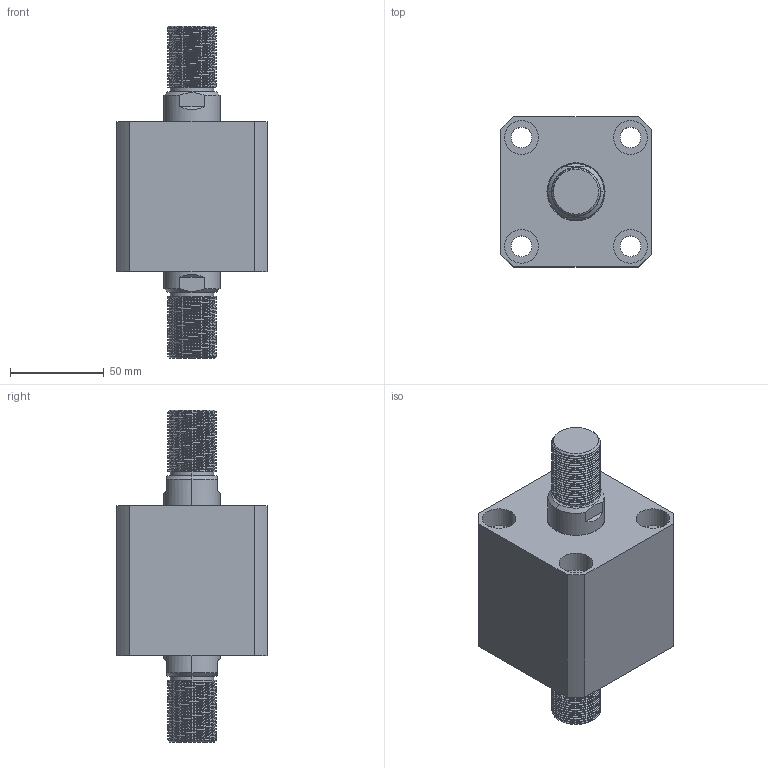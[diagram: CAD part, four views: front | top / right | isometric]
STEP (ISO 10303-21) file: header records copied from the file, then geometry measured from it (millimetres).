
FILE_DESCRIPTION (( 'STEP AP203' ), '1' );
FILE_NAME ('CHTB-SW50-5W.STEP', '2018-05-19T08:54:34', ( '' ), ( '' ), 'SwSTEP 2.0', 'SolidWorks 2015', '' );
FILE_SCHEMA (( 'CONFIG_CONTROL_DESIGN' ));
Length unit declared in the file: millimetre
Products named in the file (4): 活塞杆SW50-5W; ヶ裔; CHTB-SW50-5W; 掛极SW50-5W
Assembly tree (3 placements, depth 2):
  CHTB-SW50-5W
    掛极SW50-5W
    活塞杆SW50-5W
    ヶ裔
Bounding box: 80 x 80 x 177 mm (x, y, z)
Volume: 499186.1 mm3; surface area: 101996.8 mm2
Topology: 3 solids, 3 shells, 315 faces, 795 edges, 514 vertices
Faces by surface type: cylinder 202, plane 52, cone 29, torus 24, bspline 8
Entity records: 17308 total; most frequent: CARTESIAN_POINT 9960, ORIENTED_EDGE 1582, DIRECTION 1364, EDGE_CURVE 791, AXIS2_PLACEMENT_3D 550, VERTEX_POINT 514, EDGE_LOOP 363, FACE_OUTER_BOUND 315
